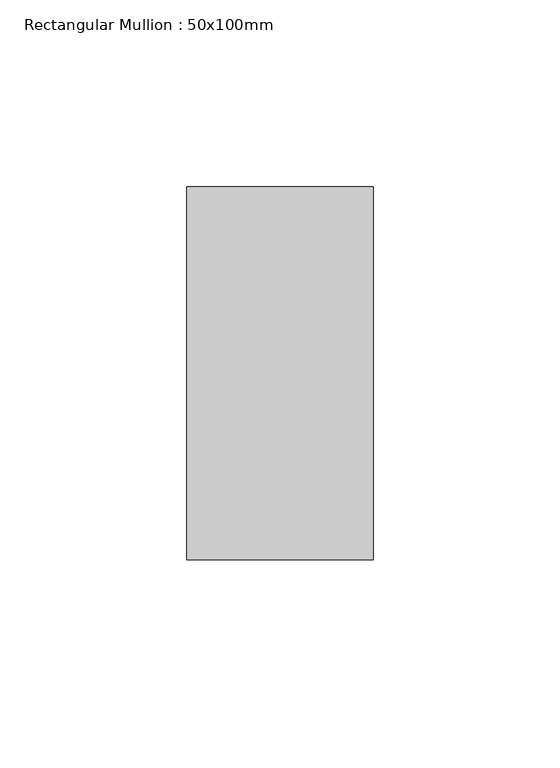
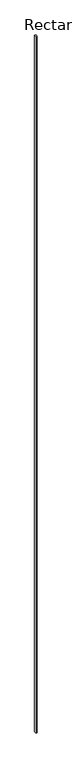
"""IFC4 building model written with IfcOpenShell, lengths in millimetres: member geometry, Rectangular Mullion : 50x100mm."""

import ifcopenshell
import ifcopenshell.guid

model = None  # the IFC model being written
_history = None  # IfcOwnerHistory: only IFC2X3 demands one
_inside = {}  # id of a spatial element -> (the spatial element, [elements in it])
_under = {}  # id of a project, library or spatial element -> (it, [spatial elements below it])
_declared = {}  # id of a project -> (the project, [libraries it declares])
_typed = {}  # id of a type object -> (the type object, [elements of that type])
_made_of = {}  # id of a material, layer set ... -> (it, [elements and type objects made of it])


def new_model(schema):
    """Start an empty IFC model of exactly this schema.

    Asked for "IFC4X3", IfcOpenShell would pick the latest addendum, in which some entities
    have other attributes; the version numbers below select the first issue.
    IFC2X3 requires an IfcOwnerHistory on every rooted entity: one is made here for all.
    """
    global model, _history
    if schema == "IFC4X3":
        model = ifcopenshell.file(schema_version=(4, 3, 0, 0))
    else:
        model = ifcopenshell.file(schema=schema)
    _inside.clear()
    _under.clear()
    _declared.clear()
    _typed.clear()
    _made_of.clear()
    _history = None
    if model.schema == "IFC2X3":
        org = make("IfcOrganization", Name="unknown")
        user = make(
            "IfcPersonAndOrganization",
            ThePerson=make("IfcPerson", FamilyName="unknown"),
            TheOrganization=org,
        )
        app = make(
            "IfcApplication",
            ApplicationDeveloper=org,
            Version="unknown",
            ApplicationFullName="unknown",
            ApplicationIdentifier="unknown",
        )
        _history = make(
            "IfcOwnerHistory",
            OwningUser=user,
            OwningApplication=app,
            ChangeAction="ADDED",
            CreationDate=0,
        )
    return model


def make(cls, **values):
    """One entity of the class cls with the attributes given. An attribute that is None is left unset."""
    return model.create_entity(
        cls, **{name: value for name, value in values.items() if value is not None}
    )


def rooted(cls, **values):
    """An entity with a GlobalId (a new one), such as an element, a storey or a relation."""
    return make(cls, GlobalId=ifcopenshell.guid.new(), OwnerHistory=_history, **values)


def si_unit(unit_type, name, prefix=None):
    """IfcSIUnit, for example si_unit("LENGTHUNIT", "METRE", prefix="MILLI")."""
    return make("IfcSIUnit", UnitType=unit_type, Prefix=prefix, Name=name)


def assignment(units):
    """IfcUnitAssignment: the units of a project."""
    return None if units is None else make("IfcUnitAssignment", Units=units)


def point(xyz):
    """IfcCartesianPoint."""
    return None if xyz is None else make("IfcCartesianPoint", Coordinates=xyz)


def direction(xyz):
    """IfcDirection."""
    return None if xyz is None else make("IfcDirection", DirectionRatios=xyz)


def frame(location, z_axis=None, x_axis=None):
    """IfcAxis2Placement3D, a coordinate frame: its origin and axes. An axis left out is left unset."""
    return make(
        "IfcAxis2Placement3D",
        Location=point(location),
        Axis=direction(z_axis),
        RefDirection=direction(x_axis),
    )


def origin():
    """The frame at (0, 0, 0) with its axes left unset."""
    return frame((0.0, 0.0, 0.0))


def place(relative_to, where):
    """IfcLocalPlacement: puts the frame where relative to a parent placement (None: the world)."""
    return make(
        "IfcLocalPlacement", PlacementRelTo=relative_to, RelativePlacement=where
    )


def context(
    kind, dimensions, precision=None, world=None, true_north=None, identifier=None
):
    """IfcGeometricRepresentationContext, for example the 3D "Model" context."""
    return make(
        "IfcGeometricRepresentationContext",
        ContextIdentifier=identifier,
        ContextType=kind,
        CoordinateSpaceDimension=dimensions,
        Precision=precision,
        WorldCoordinateSystem=world,
        TrueNorth=true_north,
    )


def project(units=None, contexts=None):
    """IfcProject with its units and contexts."""
    return rooted(
        "IfcProject",
        Name="project",
        RepresentationContexts=contexts,
        UnitsInContext=assignment(units),
    )


def spatial(cls, under=None, at=None, **own):
    """A site, building, storey or space (cls), placed at a placement, below another one or the project."""
    s = rooted(cls, ObjectPlacement=at, **own)
    if under is not None:
        _under.setdefault(under.id(), (under, []))[1].append(s)
    return s


def polyline(points):
    """IfcPolyline through the points."""
    return make("IfcPolyline", Points=[point(p) for p in points])


def outline(outer, holes=None, kind="AREA"):
    """IfcArbitraryClosedProfileDef: a profile drawn as a closed curve; with holes, ...WithVoids."""
    if holes is None:
        return make("IfcArbitraryClosedProfileDef", ProfileType=kind, OuterCurve=outer)
    return make(
        "IfcArbitraryProfileDefWithVoids",
        ProfileType=kind,
        OuterCurve=outer,
        InnerCurves=holes,
    )


def extrude(swept, where, along, depth):
    """IfcExtrudedAreaSolid: the profile swept, set in the frame where, extruded along a direction by depth."""
    return make(
        "IfcExtrudedAreaSolid",
        SweptArea=swept,
        Position=where,
        ExtrudedDirection=direction(along),
        Depth=depth,
    )


def shape(context_of_items, identifier, shape_type, items):
    """IfcShapeRepresentation: the items that make up one representation, for example the "Body"."""
    return make(
        "IfcShapeRepresentation",
        ContextOfItems=context_of_items,
        RepresentationIdentifier=identifier,
        RepresentationType=shape_type,
        Items=items,
    )


def source(mapping_origin, context_of_items, identifier, shape_type, items):
    """IfcRepresentationMap: a shape defined once, which mapped items show again and again."""
    return make(
        "IfcRepresentationMap",
        MappingOrigin=mapping_origin,
        MappedRepresentation=shape(context_of_items, identifier, shape_type, items),
    )


def transform(
    local_origin,
    x_axis=None,
    y_axis=None,
    z_axis=None,
    scale=None,
    scale2=None,
    scale3=None,
    uniform=True,
):
    """IfcCartesianTransformationOperator3D, or its non-uniform kind. x_axis, y_axis, z_axis: its Axis1, 2, 3."""
    if uniform:
        return make(
            "IfcCartesianTransformationOperator3D",
            Axis1=direction(x_axis),
            Axis2=direction(y_axis),
            LocalOrigin=point(local_origin),
            Scale=scale,
            Axis3=direction(z_axis),
        )
    return make(
        "IfcCartesianTransformationOperator3DnonUniform",
        Axis1=direction(x_axis),
        Axis2=direction(y_axis),
        LocalOrigin=point(local_origin),
        Scale=scale,
        Axis3=direction(z_axis),
        Scale2=scale2,
        Scale3=scale3,
    )


def mapped(mapping_source, mapping_target):
    """IfcMappedItem: shows the shape of a source again, moved by a transform."""
    return make(
        "IfcMappedItem", MappingSource=mapping_source, MappingTarget=mapping_target
    )


def made_of(thing, what):
    """Note that an element or type object is made of a material, layer set ...; save() writes the relation."""
    if what is not None:
        _made_of.setdefault(what.id(), (what, []))[1].append(thing)
    return thing


def element(
    cls,
    number,
    at=None,
    inside=None,
    cuts=None,
    type_object=None,
    material=None,
    context=None,
    identifier="Body",
    shape_type=None,
    held_by="IfcProductDefinitionShape",
    body=None,
    shapes=None,
    **own,
):
    """One element of the class cls, such as IfcWall. Its Tag is "e" and its number.

    at: its placement. inside: the storey or other place that contains it. cuts: it is an
    opening in that element (IfcRelVoidsElement). A single representation is given by context,
    identifier, shape_type and body (its items); several are given by shapes. held_by: the class
    of the entity that holds the representations. save() writes the other relations.
    """
    e = rooted(cls, Tag="e%d" % number, ObjectPlacement=at, **own)
    if body is not None:
        shapes = [shape(context, identifier, shape_type, body)]
    if shapes is not None:
        e.Representation = make(held_by, Representations=shapes)
    if inside is not None:
        _inside.setdefault(inside.id(), (inside, []))[1].append(e)
    if cuts is not None:
        rooted(
            "IfcRelVoidsElement", RelatingBuildingElement=cuts, RelatedOpeningElement=e
        )
    if type_object is not None:
        _typed.setdefault(type_object.id(), (type_object, []))[1].append(e)
    return made_of(e, material)


def aggregate(whole, parts):
    """IfcRelAggregates: a whole, such as a stair, and the parts it consists of."""
    return rooted("IfcRelAggregates", RelatingObject=whole, RelatedObjects=parts)


def save(model, path):
    """Write the relations noted so far, then the file.

    IfcRelAggregates (storeys below a building ...), IfcRelContainedInSpatialStructure (elements
    in a storey), IfcRelDefinesByType, IfcRelAssociatesMaterial and IfcRelDeclares: one each for
    every whole, place, type object, material and project.
    """
    for whole, parts in _under.values():
        aggregate(whole, parts)
    for where, things in _inside.values():
        rooted(
            "IfcRelContainedInSpatialStructure",
            RelatedElements=things,
            RelatingStructure=where,
        )
    for kind, things in _typed.values():
        rooted("IfcRelDefinesByType", RelatedObjects=things, RelatingType=kind)
    for what, things in _made_of.values():
        rooted("IfcRelAssociatesMaterial", RelatedObjects=things, RelatingMaterial=what)
    for by, libraries in _declared.values():
        rooted("IfcRelDeclares", RelatingContext=by, RelatedDefinitions=libraries)
    model.write(path)


def rectangular_mullion_50x100mm_1c66cb7a(model_context):
    return source(origin(), model_context, "Body", "SweptSolid", [
        extrude(outline(polyline([(25.0, 50.0), (25.0, -50.0), (-25.0, -50.0), (-25.0, 50.0), (25.0, 50.0)])), frame((0.0, 0.0, -33185.0316263), z_axis=(0.0, 0.0, 1.0), x_axis=(1.0, 0.0, 0.0)), (0.0, 0.0, 1.0), 33185.0316263),
    ])


if __name__ == "__main__":
    model = new_model("IFC4")
    model_context = context("Model", 3, world=origin())
    ifc_project = project(units=[si_unit("LENGTHUNIT", "METRE", prefix="MILLI")], contexts=[model_context])
    site = spatial("IfcSite", under=ifc_project)
    building = spatial("IfcBuilding", under=site)
    placement = place(None, origin())
    rectangular_mullion_50x100mm_shape = rectangular_mullion_50x100mm_1c66cb7a(model_context)
    element("IfcMember", 1, ObjectType="Rectangular Mullion : 50x100mm", at=placement, inside=building, context=model_context, shape_type="MappedRepresentation", body=[
        mapped(rectangular_mullion_50x100mm_shape, transform((0.0, 0.0, 0.0), x_axis=(1.0, 0.0, 0.0), y_axis=(0.0, 1.0, 0.0), z_axis=(0.0, 0.0, 1.0))),
    ])
    save(model, "model.ifc")
